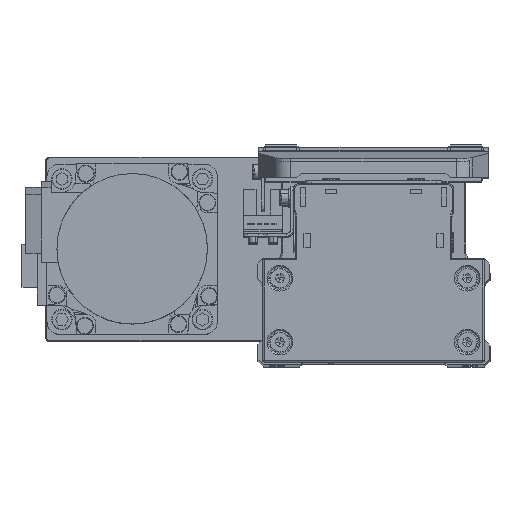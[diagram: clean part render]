
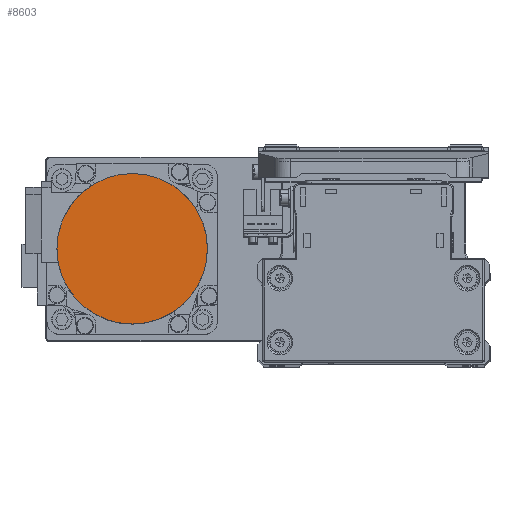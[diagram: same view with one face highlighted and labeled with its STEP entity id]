
A CAD part, top view. The second image highlights one B-rep face of the part: STEP entity #8603.
In plain terms, the highlighted planar face has unit normal (0, 0, 1) as drawn and (0, 0, -1) by its records, which use the part's own axes.
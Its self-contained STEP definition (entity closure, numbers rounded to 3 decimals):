
#537 = CARTESIAN_POINT ( 'NONE',  ( 0., 0., -109.7 ) ) ;
#1653 = CIRCLE ( 'NONE', #24594, 26.5 ) ;
#2844 = VERTEX_POINT ( 'NONE', #35966 ) ;
#6164 = EDGE_LOOP ( 'NONE', ( #23744, #19307 ) ) ;
#8095 = EDGE_CURVE ( 'NONE', #2844, #8221, #1653, .T. ) ;
#8221 = VERTEX_POINT ( 'NONE', #23141 ) ;
#8603 = ADVANCED_FACE ( 'NONE', ( #16135 ), #28643, .F. ) ;
#12057 = DIRECTION ( 'NONE',  ( 0., 0., 1. ) ) ;
#13063 = DIRECTION ( 'NONE',  ( 0., 0., 1. ) ) ;
#13111 = CARTESIAN_POINT ( 'NONE',  ( 0., 0., -109.7 ) ) ;
#16135 = FACE_OUTER_BOUND ( 'NONE', #6164, .T. ) ;
#17346 = CIRCLE ( 'NONE', #40257, 26.5 ) ;
#19307 = ORIENTED_EDGE ( 'NONE', *, *, #26381, .F. ) ;
#23141 = CARTESIAN_POINT ( 'NONE',  ( 26.5, 0., -109.7 ) ) ;
#23744 = ORIENTED_EDGE ( 'NONE', *, *, #8095, .F. ) ;
#24575 = DIRECTION ( 'NONE',  ( 1., 0., 0. ) ) ;
#24594 = AXIS2_PLACEMENT_3D ( 'NONE', #13111, #25619, #38115 ) ;
#25572 = DIRECTION ( 'NONE',  ( 1., 0., 0. ) ) ;
#25619 = DIRECTION ( 'NONE',  ( 0., 0., 1. ) ) ;
#26381 = EDGE_CURVE ( 'NONE', #8221, #2844, #17346, .T. ) ;
#28643 = PLANE ( 'NONE',  #33142 ) ;
#33142 = AXIS2_PLACEMENT_3D ( 'NONE', #537, #13063, #25572 ) ;
#35966 = CARTESIAN_POINT ( 'NONE',  ( -26.5, 0., -109.7 ) ) ;
#38115 = DIRECTION ( 'NONE',  ( -1., 0., 0. ) ) ;
#40155 = CARTESIAN_POINT ( 'NONE',  ( 0., 0., -109.7 ) ) ;
#40257 = AXIS2_PLACEMENT_3D ( 'NONE', #40155, #12057, #24575 ) ;
